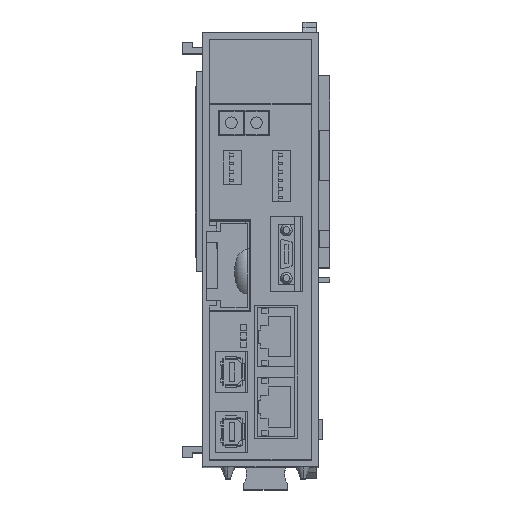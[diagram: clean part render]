
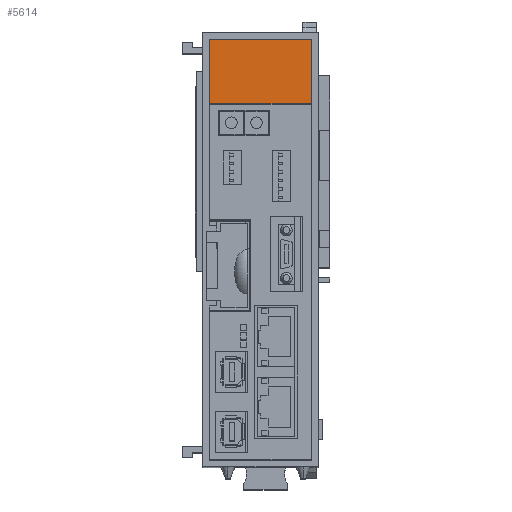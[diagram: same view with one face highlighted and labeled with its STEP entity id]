
A CAD part, top view. The second image highlights one B-rep face of the part: STEP entity #5614.
In plain terms, the highlighted planar face has unit normal (0, 0, 1).
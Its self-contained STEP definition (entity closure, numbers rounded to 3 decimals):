
#5555 = EDGE_CURVE ( 'NONE', #5626, #5580, #19477, .T. ) ;
#5558 = EDGE_LOOP ( 'NONE', ( #5615, #5616, #5617, #5618 ) ) ;
#5564 = EDGE_CURVE ( 'NONE', #5581, #5565, #19529, .T. ) ;
#5565 = VERTEX_POINT ( 'NONE', #19525 ) ;
#5579 = EDGE_CURVE ( 'NONE', #5580, #5581, #19507, .T. ) ;
#5580 = VERTEX_POINT ( 'NONE', #19503 ) ;
#5581 = VERTEX_POINT ( 'NONE', #19502 ) ;
#5614 = ADVANCED_FACE ( 'NONE', ( #19593 ), #19592, .T. ) ;
#5615 = ORIENTED_EDGE ( 'NONE', *, *, #5555, .T. ) ;
#5616 = ORIENTED_EDGE ( 'NONE', *, *, #5579, .T. ) ;
#5617 = ORIENTED_EDGE ( 'NONE', *, *, #5564, .T. ) ;
#5618 = ORIENTED_EDGE ( 'NONE', *, *, #5625, .T. ) ;
#5625 = EDGE_CURVE ( 'NONE', #5565, #5626, #19581, .T. ) ;
#5626 = VERTEX_POINT ( 'NONE', #19577 ) ;
#19474 = DIRECTION ( 'NONE',  ( -1., 0., 0. ) ) ;
#19475 = VECTOR ( 'NONE', #19474, 1000. ) ;
#19476 = CARTESIAN_POINT ( 'NONE',  ( 2., 59.65, 137. ) ) ;
#19477 = LINE ( 'NONE', #19476, #19475 ) ;
#19502 = CARTESIAN_POINT ( 'NONE',  ( 2., 40.4, 137. ) ) ;
#19503 = CARTESIAN_POINT ( 'NONE',  ( 2., 59.65, 137. ) ) ;
#19504 = DIRECTION ( 'NONE',  ( 0., -1., 0. ) ) ;
#19505 = VECTOR ( 'NONE', #19504, 1000. ) ;
#19506 = CARTESIAN_POINT ( 'NONE',  ( 2., 59.65, 137. ) ) ;
#19507 = LINE ( 'NONE', #19506, #19505 ) ;
#19525 = CARTESIAN_POINT ( 'NONE',  ( 32.45, 40.4, 137. ) ) ;
#19526 = DIRECTION ( 'NONE',  ( 1., 0., 0. ) ) ;
#19527 = VECTOR ( 'NONE', #19526, 1000. ) ;
#19528 = CARTESIAN_POINT ( 'NONE',  ( 2., 40.4, 137. ) ) ;
#19529 = LINE ( 'NONE', #19528, #19527 ) ;
#19577 = CARTESIAN_POINT ( 'NONE',  ( 32.45, 59.65, 137. ) ) ;
#19578 = DIRECTION ( 'NONE',  ( 0., 1., 0. ) ) ;
#19579 = VECTOR ( 'NONE', #19578, 1000. ) ;
#19580 = CARTESIAN_POINT ( 'NONE',  ( 32.45, 59.65, 137. ) ) ;
#19581 = LINE ( 'NONE', #19580, #19579 ) ;
#19588 = DIRECTION ( 'NONE',  ( 1., 0., 0. ) ) ;
#19589 = DIRECTION ( 'NONE',  ( 0., 0., 1. ) ) ;
#19590 = CARTESIAN_POINT ( 'NONE',  ( 0., 0., 137. ) ) ;
#19591 = AXIS2_PLACEMENT_3D ( 'NONE', #19590, #19589, #19588 ) ;
#19592 = PLANE ( 'NONE',  #19591 ) ;
#19593 = FACE_OUTER_BOUND ( 'NONE', #5558, .T. ) ;
